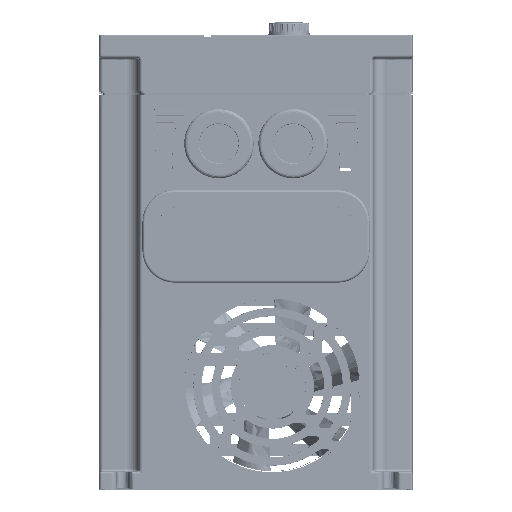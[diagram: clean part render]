
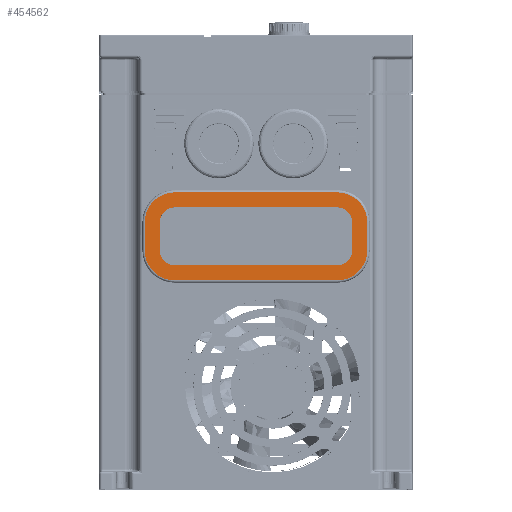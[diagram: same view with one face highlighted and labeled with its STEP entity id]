
A CAD part, top view. The second image highlights one B-rep face of the part: STEP entity #454562.
In plain terms, the highlighted planar face has unit normal (0, 0, 1) as drawn and (0, 0, -1) by its records, which use the part's own axes.
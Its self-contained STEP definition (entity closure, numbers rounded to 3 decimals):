
#4458 = CARTESIAN_POINT ( 'NONE',  ( 35., -12.5, 0. ) ) ;
#5011 = CARTESIAN_POINT ( 'NONE',  ( 48., -6., 0. ) ) ;
#6341 = DIRECTION ( 'NONE',  ( -1., 0., 0. ) ) ;
#7199 = CARTESIAN_POINT ( 'NONE',  ( -35., -6., 0. ) ) ;
#10670 = LINE ( 'NONE', #268503, #422172 ) ;
#12018 = VECTOR ( 'NONE', #357372, 1000. ) ;
#21516 = EDGE_LOOP ( 'NONE', ( #78499, #289017, #320727, #129769, #74506, #415160, #206492, #144151 ) ) ;
#28980 = DIRECTION ( 'NONE',  ( -1., 0., 0. ) ) ;
#31625 = ORIENTED_EDGE ( 'NONE', *, *, #393057, .F. ) ;
#47367 = DIRECTION ( 'NONE',  ( -1., 0., 0. ) ) ;
#47371 = AXIS2_PLACEMENT_3D ( 'NONE', #314280, #75724, #354448 ) ;
#57206 = CARTESIAN_POINT ( 'NONE',  ( 48., -6., 0. ) ) ;
#60146 = CARTESIAN_POINT ( 'NONE',  ( 41.5, -6., 0. ) ) ;
#60226 = CARTESIAN_POINT ( 'NONE',  ( 35., 19., 0. ) ) ;
#62525 = DIRECTION ( 'NONE',  ( 0., 0., -1. ) ) ;
#63302 = AXIS2_PLACEMENT_3D ( 'NONE', #301032, #62525, #341179 ) ;
#64452 = CIRCLE ( 'NONE', #429603, 6.5 ) ;
#65290 = CARTESIAN_POINT ( 'NONE',  ( -35., 6., 0. ) ) ;
#66449 = VECTOR ( 'NONE', #177459, 1000. ) ;
#73760 = VERTEX_POINT ( 'NONE', #87211 ) ;
#74506 = ORIENTED_EDGE ( 'NONE', *, *, #501795, .T. ) ;
#75724 = DIRECTION ( 'NONE',  ( 0., 0., -1. ) ) ;
#78499 = ORIENTED_EDGE ( 'NONE', *, *, #355434, .T. ) ;
#86245 = EDGE_CURVE ( 'NONE', #299222, #247807, #295132, .T. ) ;
#87211 = CARTESIAN_POINT ( 'NONE',  ( 35., -19., 0. ) ) ;
#99645 = VECTOR ( 'NONE', #134838, 1000. ) ;
#103861 = CARTESIAN_POINT ( 'NONE',  ( -41.5, 6., 0. ) ) ;
#104690 = ORIENTED_EDGE ( 'NONE', *, *, #438206, .F. ) ;
#104855 = VERTEX_POINT ( 'NONE', #125384 ) ;
#105336 = DIRECTION ( 'NONE',  ( -1., 0., 0. ) ) ;
#109416 = AXIS2_PLACEMENT_3D ( 'NONE', #7199, #285915, #47367 ) ;
#111081 = EDGE_CURVE ( 'NONE', #427691, #499282, #352821, .T. ) ;
#122446 = AXIS2_PLACEMENT_3D ( 'NONE', #182694, #461243, #222664 ) ;
#122690 = EDGE_CURVE ( 'NONE', #499282, #450058, #199734, .T. ) ;
#125384 = CARTESIAN_POINT ( 'NONE',  ( -48., -6., 0. ) ) ;
#129769 = ORIENTED_EDGE ( 'NONE', *, *, #362903, .T. ) ;
#133250 = CIRCLE ( 'NONE', #63302, 6.5 ) ;
#134838 = DIRECTION ( 'NONE',  ( 1., 0., 0. ) ) ;
#135576 = DIRECTION ( 'NONE',  ( -1., 0., 0. ) ) ;
#144151 = ORIENTED_EDGE ( 'NONE', *, *, #296155, .T. ) ;
#145865 = ORIENTED_EDGE ( 'NONE', *, *, #111081, .F. ) ;
#154061 = AXIS2_PLACEMENT_3D ( 'NONE', #237661, #516372, #277713 ) ;
#162014 = ORIENTED_EDGE ( 'NONE', *, *, #122690, .F. ) ;
#166818 = EDGE_CURVE ( 'NONE', #502882, #304688, #490248, .T. ) ;
#172325 = DIRECTION ( 'NONE',  ( 0., 0., -1. ) ) ;
#176656 = CARTESIAN_POINT ( 'NONE',  ( -35., 12.5, 0. ) ) ;
#176857 = DIRECTION ( 'NONE',  ( -1., 0., 0. ) ) ;
#177459 = DIRECTION ( 'NONE',  ( 0., -1., 0. ) ) ;
#180385 = CARTESIAN_POINT ( 'NONE',  ( -35., -19., 0. ) ) ;
#182694 = CARTESIAN_POINT ( 'NONE',  ( 35., 6., 0. ) ) ;
#189318 = LINE ( 'NONE', #374196, #295091 ) ;
#191949 = DIRECTION ( 'NONE',  ( 0., 1., 0. ) ) ;
#197938 = CARTESIAN_POINT ( 'NONE',  ( 48., 6., 0. ) ) ;
#199734 = LINE ( 'NONE', #506814, #424158 ) ;
#202126 = VERTEX_POINT ( 'NONE', #494527 ) ;
#206492 = ORIENTED_EDGE ( 'NONE', *, *, #471554, .T. ) ;
#213421 = CARTESIAN_POINT ( 'NONE',  ( 35., 12.5, 0. ) ) ;
#214541 = EDGE_CURVE ( 'NONE', #492219, #299222, #189318, .T. ) ;
#218569 = CARTESIAN_POINT ( 'NONE',  ( -35., -19., 0. ) ) ;
#220303 = LINE ( 'NONE', #218569, #313657 ) ;
#222664 = DIRECTION ( 'NONE',  ( -1., 0., 0. ) ) ;
#224050 = LINE ( 'NONE', #317178, #12018 ) ;
#235069 = EDGE_CURVE ( 'NONE', #247807, #459081, #505269, .T. ) ;
#237661 = CARTESIAN_POINT ( 'NONE',  ( 35., -6., 0. ) ) ;
#240928 = DIRECTION ( 'NONE',  ( 0., 1., 0. ) ) ;
#242652 = CARTESIAN_POINT ( 'NONE',  ( -41.5, -6., 0. ) ) ;
#244778 = VERTEX_POINT ( 'NONE', #180385 ) ;
#244844 = AXIS2_PLACEMENT_3D ( 'NONE', #305878, #267571, #28980 ) ;
#245118 = DIRECTION ( 'NONE',  ( 0., 0., -1. ) ) ;
#247807 = VERTEX_POINT ( 'NONE', #458589 ) ;
#248121 = ORIENTED_EDGE ( 'NONE', *, *, #214541, .F. ) ;
#253964 = AXIS2_PLACEMENT_3D ( 'NONE', #483747, #245118, #6341 ) ;
#256672 = AXIS2_PLACEMENT_3D ( 'NONE', #410882, #172325, #450842 ) ;
#264709 = CARTESIAN_POINT ( 'NONE',  ( 41.5, 6., 0. ) ) ;
#264784 = DIRECTION ( 'NONE',  ( 0., -1., 0. ) ) ;
#267571 = DIRECTION ( 'NONE',  ( 0., 0., -1. ) ) ;
#268503 = CARTESIAN_POINT ( 'NONE',  ( -48., 6., 0. ) ) ;
#269913 = FACE_OUTER_BOUND ( 'NONE', #21516, .T. ) ;
#270855 = EDGE_CURVE ( 'NONE', #244778, #104855, #494137, .T. ) ;
#274096 = CIRCLE ( 'NONE', #154061, 13. ) ;
#277713 = DIRECTION ( 'NONE',  ( -1., 0., 0. ) ) ;
#283036 = VERTEX_POINT ( 'NONE', #60226 ) ;
#284098 = CARTESIAN_POINT ( 'NONE',  ( -48., 6., 0. ) ) ;
#284637 = EDGE_CURVE ( 'NONE', #283036, #502882, #481010, .T. ) ;
#285915 = DIRECTION ( 'NONE',  ( 0., 0., -1. ) ) ;
#289017 = ORIENTED_EDGE ( 'NONE', *, *, #284637, .T. ) ;
#293289 = VECTOR ( 'NONE', #240928, 1000. ) ;
#295091 = VECTOR ( 'NONE', #135576, 1000. ) ;
#295132 = CIRCLE ( 'NONE', #256672, 6.5 ) ;
#296155 = EDGE_CURVE ( 'NONE', #439328, #367060, #497642, .T. ) ;
#299222 = VERTEX_POINT ( 'NONE', #473651 ) ;
#301032 = CARTESIAN_POINT ( 'NONE',  ( 35., -6., 0. ) ) ;
#304688 = VERTEX_POINT ( 'NONE', #5011 ) ;
#305878 = CARTESIAN_POINT ( 'NONE',  ( 0., 0., 0. ) ) ;
#311436 = LINE ( 'NONE', #176656, #99645 ) ;
#313657 = VECTOR ( 'NONE', #176857, 1000. ) ;
#314280 = CARTESIAN_POINT ( 'NONE',  ( 35., 6., 0. ) ) ;
#317178 = CARTESIAN_POINT ( 'NONE',  ( 35., 19., 0. ) ) ;
#320727 = ORIENTED_EDGE ( 'NONE', *, *, #166818, .T. ) ;
#341179 = DIRECTION ( 'NONE',  ( -1., 0., 0. ) ) ;
#343896 = DIRECTION ( 'NONE',  ( 0., 0., -1. ) ) ;
#351781 = ORIENTED_EDGE ( 'NONE', *, *, #235069, .F. ) ;
#352821 = CIRCLE ( 'NONE', #122446, 6.5 ) ;
#354448 = DIRECTION ( 'NONE',  ( -1., 0., 0. ) ) ;
#355233 = EDGE_CURVE ( 'NONE', #202126, #427691, #311436, .T. ) ;
#355434 = EDGE_CURVE ( 'NONE', #367060, #283036, #224050, .T. ) ;
#357372 = DIRECTION ( 'NONE',  ( 1., 0., 0. ) ) ;
#361177 = ORIENTED_EDGE ( 'NONE', *, *, #355233, .F. ) ;
#362903 = EDGE_CURVE ( 'NONE', #304688, #73760, #274096, .T. ) ;
#367060 = VERTEX_POINT ( 'NONE', #368959 ) ;
#368959 = CARTESIAN_POINT ( 'NONE',  ( -35., 19., 0. ) ) ;
#374196 = CARTESIAN_POINT ( 'NONE',  ( 35., -12.5, 0. ) ) ;
#393057 = EDGE_CURVE ( 'NONE', #459081, #202126, #64452, .T. ) ;
#410882 = CARTESIAN_POINT ( 'NONE',  ( -35., -6., 0. ) ) ;
#415160 = ORIENTED_EDGE ( 'NONE', *, *, #270855, .T. ) ;
#422172 = VECTOR ( 'NONE', #191949, 1000. ) ;
#424158 = VECTOR ( 'NONE', #264784, 1000. ) ;
#427691 = VERTEX_POINT ( 'NONE', #213421 ) ;
#429603 = AXIS2_PLACEMENT_3D ( 'NONE', #65290, #343896, #105336 ) ;
#438206 = EDGE_CURVE ( 'NONE', #450058, #492219, #133250, .T. ) ;
#439328 = VERTEX_POINT ( 'NONE', #284098 ) ;
#450058 = VERTEX_POINT ( 'NONE', #60146 ) ;
#450842 = DIRECTION ( 'NONE',  ( -1., 0., 0. ) ) ;
#454562 = ADVANCED_FACE ( 'NONE', ( #494401, #269913 ), #506200, .T. ) ;
#458589 = CARTESIAN_POINT ( 'NONE',  ( -41.5, -6., 0. ) ) ;
#459081 = VERTEX_POINT ( 'NONE', #103861 ) ;
#461243 = DIRECTION ( 'NONE',  ( 0., 0., -1. ) ) ;
#471554 = EDGE_CURVE ( 'NONE', #104855, #439328, #10670, .T. ) ;
#473651 = CARTESIAN_POINT ( 'NONE',  ( -35., -12.5, 0. ) ) ;
#479914 = EDGE_LOOP ( 'NONE', ( #31625, #351781, #513812, #248121, #104690, #162014, #145865, #361177 ) ) ;
#481010 = CIRCLE ( 'NONE', #47371, 13. ) ;
#483747 = CARTESIAN_POINT ( 'NONE',  ( -35., 6., 0. ) ) ;
#490248 = LINE ( 'NONE', #57206, #66449 ) ;
#492219 = VERTEX_POINT ( 'NONE', #4458 ) ;
#494137 = CIRCLE ( 'NONE', #109416, 13. ) ;
#494401 = FACE_BOUND ( 'NONE', #479914, .T. ) ;
#494527 = CARTESIAN_POINT ( 'NONE',  ( -35., 12.5, 0. ) ) ;
#497642 = CIRCLE ( 'NONE', #253964, 13. ) ;
#499282 = VERTEX_POINT ( 'NONE', #264709 ) ;
#501795 = EDGE_CURVE ( 'NONE', #73760, #244778, #220303, .T. ) ;
#502882 = VERTEX_POINT ( 'NONE', #197938 ) ;
#505269 = LINE ( 'NONE', #242652, #293289 ) ;
#506200 = PLANE ( 'NONE',  #244844 ) ;
#506814 = CARTESIAN_POINT ( 'NONE',  ( 41.5, 6., 0. ) ) ;
#513812 = ORIENTED_EDGE ( 'NONE', *, *, #86245, .F. ) ;
#516372 = DIRECTION ( 'NONE',  ( 0., 0., -1. ) ) ;
